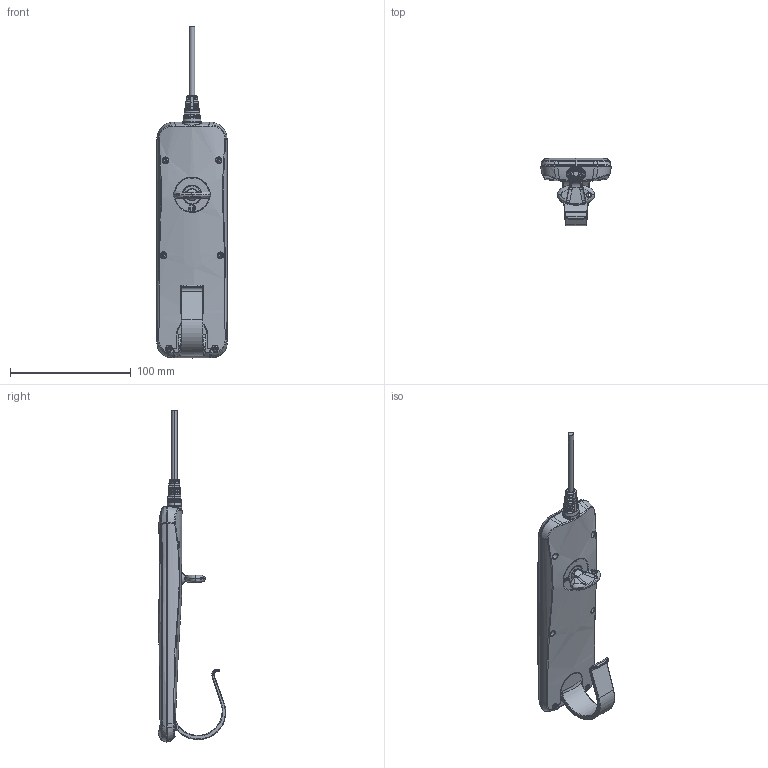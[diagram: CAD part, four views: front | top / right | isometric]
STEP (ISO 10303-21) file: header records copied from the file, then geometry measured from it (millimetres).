
FILE_DESCRIPTION((''),'2;1');
FILE_NAME('HS12_ASM','2020-09-08T',('USER'),(''),'PRO/ENGINEER BY PARAMETRIC TECHNOLOGY CORPORATION, 2008090','PRO/ENGINEER BY PARAMETRIC TECHNOLOGY CORPORATION, 2008090','');
FILE_SCHEMA(('CONFIG_CONTROL_DESIGN'));
Products named in the file (1): HS12_ASM
Bounding box: 58 x 55.97 x 274.5 mm (x, y, z)
Surface area: 81701.1 mm2 (no closed solid volume)
Topology: 0 solids, 1 shells, 2263 faces, 6169 edges, 4008 vertices
Faces by surface type: plane 631, bspline 621, cylinder 560, torus 280, cone 156, extrusion 13, sphere 2
Entity records: 107644 total; most frequent: CARTESIAN_POINT 55844, ORIENTED_EDGE 12332, DIRECTION 8832, EDGE_CURVE 6166, VERTEX_POINT 4007, AXIS2_PLACEMENT_3D 3522, B_SPLINE_CURVE_WITH_KNOTS 2510, EDGE_LOOP 2387
